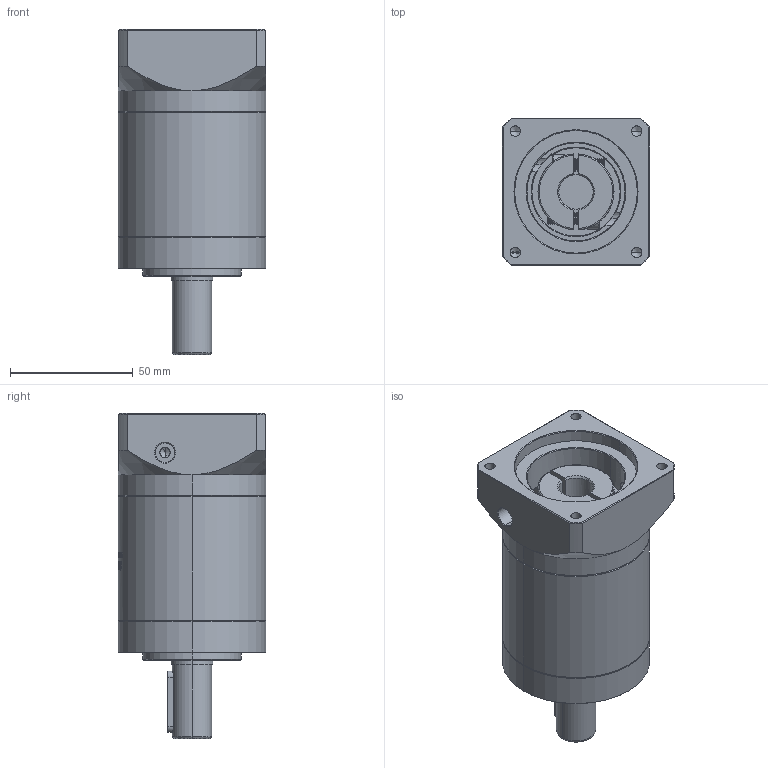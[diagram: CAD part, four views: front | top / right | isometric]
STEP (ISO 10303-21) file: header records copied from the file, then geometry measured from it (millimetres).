
FILE_DESCRIPTION (( 'STEP AP214' ), '1' );
FILE_NAME ('ZE60-D16-L2-14-50-70-M5.STEP', '2022-04-17T15:30:39', ( '' ), ( 'Microsoft' ), 'SwSTEP 2.0', 'SolidWorks 2016', '' );
FILE_SCHEMA (( 'AUTOMOTIVE_DESIGN' ));
Length unit declared in the file: millimetre
Products named in the file (1): ZE60-D16-L2-14-50-70-M5
Bounding box: 60 x 60 x 132.5 mm (x, y, z)
Volume: 263459.3 mm3; surface area: 45928.1 mm2
Topology: 6 solids, 6 shells, 1598 faces, 4327 edges, 2801 vertices
Faces by surface type: plane 724, cylinder 335, bspline 299, cone 222, torus 18
Entity records: 90501 total; most frequent: CARTESIAN_POINT 36419, ORIENTED_EDGE 8610, DIRECTION 6297, EDGE_CURVE 4305, VERTEX_POINT 2801, LINE 2203, VECTOR 2203, AXIS2_PLACEMENT_3D 2047
